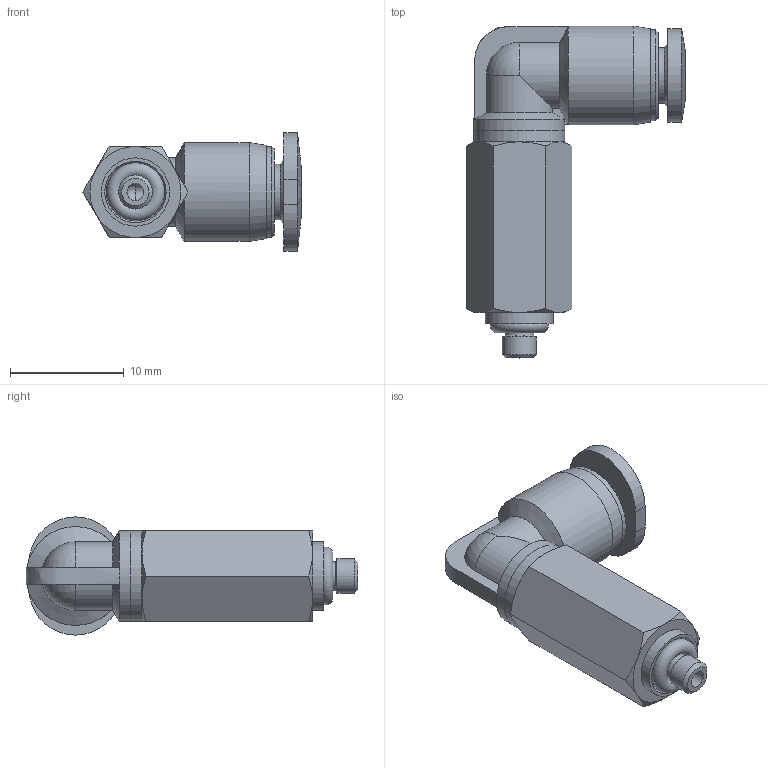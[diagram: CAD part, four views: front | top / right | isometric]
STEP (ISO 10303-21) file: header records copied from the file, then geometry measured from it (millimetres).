
FILE_DESCRIPTION((''),'2;1');
FILE_NAME('D:\INVENTOR\[New Inventor]\CDC Products 3D Ass''y\Compact One-Touch Fittings\Metric\PLL-C\PLL04-M3C.stp','2010-10-05T17:31:14',('Microsoft'),(''),'Autodesk Inventor 2008','Autodesk Inventor 2008','');
FILE_SCHEMA(('AUTOMOTIVE_DESIGN { 1 0 10303 214 1 1 1 1 }'));
Length unit declared in the file: millimetre
Products named in the file (1): PLL04-M3C
Bounding box: 19.19 x 29.2 x 10.4 mm (x, y, z)
Volume: 1612.7 mm3; surface area: 1575.1 mm2
Topology: 2 solids, 2 shells, 76 faces, 171 edges, 101 vertices
Faces by surface type: plane 24, cone 22, cylinder 19, bspline 5, torus 3, sphere 3
Full cylindrical faces by diameter (mm): 1.5 x2, 2.5 x2, 3 x1, 4.2 x1, 4.9 x1, 6 x1, 6.2 x1, 8 x3, 8.7 x1
Entity records: 2200 total; most frequent: CARTESIAN_POINT 683, DIRECTION 320, ORIENTED_EDGE 280, AXIS2_PLACEMENT_3D 147, EDGE_CURVE 140, EDGE_LOOP 110, VERTEX_POINT 96, FACE_OUTER_BOUND 76
